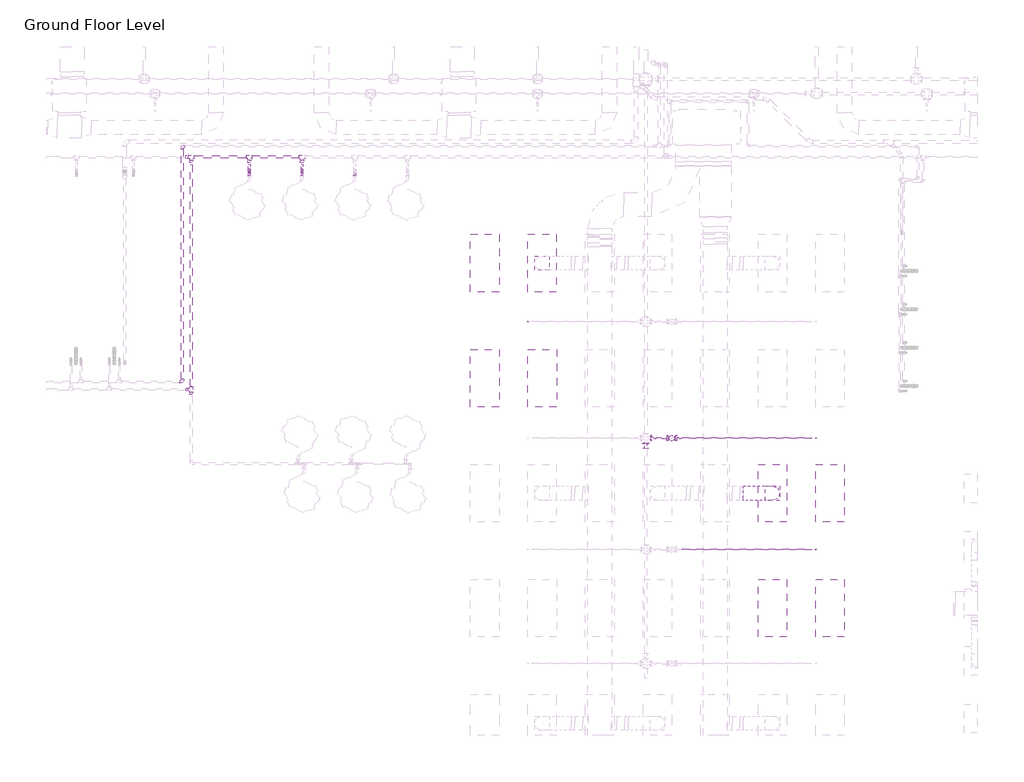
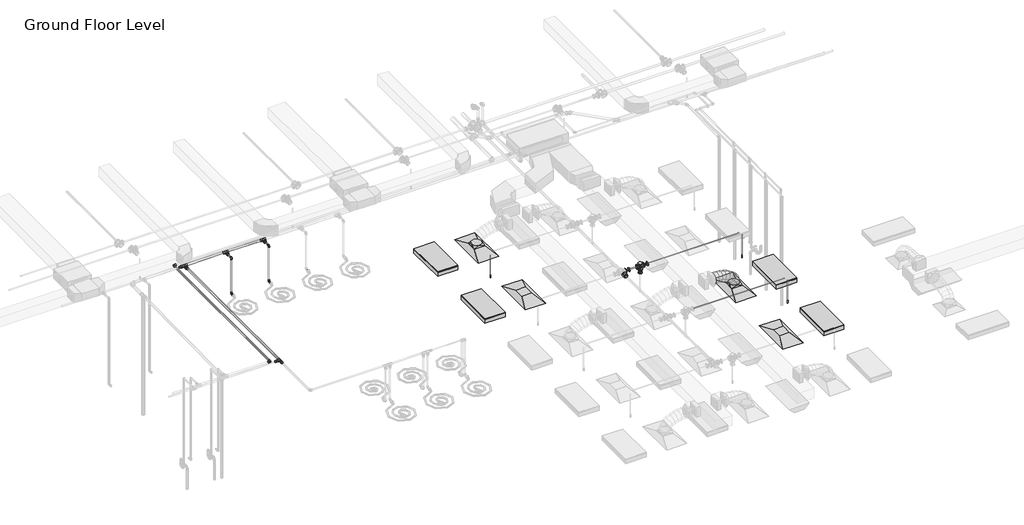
# One storey, part 46 of 68: 21 pipe fittings, 17 pipe segments, 4 air terminals, 4 light fixtures, 3 fire suppression terminals, 2 duct fittings, 1 duct segment.
"""IFC4 building model written with IfcOpenShell, lengths in millimetres."""

from ifc_helpers import new_model, si_unit, point, frame, frame_2d, origin, place, context, project, spatial, circle_curve, ellipse_curve, trimmed, segment, composite_curve, outline, extrude, transform, mapped, element, save
from ifc_brep_helpers import plane_surface, cylinder_surface, advanced_brep
from components import m_return_diffuser_1200x600_1200_x_600_face_300_x_300_d1983ef6, m_rectangular_to_round_transition_angle_45_degree_641efff0, m_sprinkler_dry_pendent_hosted_15_mm_dry_pendent_9bda8e11, m_troffer_light_parabolic_rectangular1_0600x1200mm_4_lamp_86473d4a, m_reducer_flanged_cs_class_150_standard_ccf252ad, m_reducer_flanged_cs_class_150_standard_d42b2106, m_reducer_flanged_cs_class_150_standard_564df86d, m_reducer_flanged_cs_class_150_standard_8338f9e4, m_tee_round_base_flanged_cs_class_150_standard_7e5987a1, standard_517a5a8d, standard_cd25fed3, standard_f1337950, standard_5079833c, standard_92e3b147, standard_bbae78af, standard_69e4ce0e, standard_a995ec02

model = new_model("IFC4")

# Units and contexts
model_context = context("Model", 3, world=origin())
ifc_project = project(units=[si_unit("LENGTHUNIT", "METRE", prefix="MILLI")], contexts=[model_context])

# Site, building, storey
site = spatial("IfcSite", under=ifc_project)
building = spatial("IfcBuilding", under=site)
storey = spatial("IfcBuildingStorey", under=building, Name="Ground Floor Level", Elevation=900.0)

# Air terminals
placement = place(None, origin())
m_return_diffuser_1200x600_1200_x_600_face_300_x_300_shape = m_return_diffuser_1200x600_1200_x_600_face_300_x_300_d1983ef6(model_context)
element("IfcAirTerminal", 1, ObjectType="M_Return Diffuser 1200x600 : 1200 x 600 Face 300 x 300 Connection", at=placement, inside=storey, context=model_context, shape_type="MappedRepresentation", body=[
    mapped(m_return_diffuser_1200x600_1200_x_600_face_300_x_300_shape, transform((-8137.2327605, 8835.2153534, 3650.0), x_axis=(0.0, 1.0, 0.0), y_axis=(-1.0, 0.0, 0.0), z_axis=(0.0, 0.0, 1.0))),
])
element("IfcAirTerminal", 2, ObjectType="M_Return Diffuser 1200x600 : 1200 x 600 Face 300 x 300 Connection", at=placement, inside=storey, context=model_context, shape_type="MappedRepresentation", body=[
    mapped(m_return_diffuser_1200x600_1200_x_600_face_300_x_300_shape, transform((-3337.2327605, 4035.2153534, 3650.0), x_axis=(0.0, 1.0, 0.0), y_axis=(-1.0, 0.0, 0.0), z_axis=(0.0, 0.0, 1.0))),
])
element("IfcAirTerminal", 3, ObjectType="M_Supply Diffuser 1200x600 : 1200 x 600 Face 300 x 300 Connection", at=placement, inside=storey, context=model_context, shape_type="MappedRepresentation", body=[
    mapped(m_return_diffuser_1200x600_1200_x_600_face_300_x_300_shape, transform((-8142.6846929, 11235.2153534, 3650.0), x_axis=(0.0, 1.0, 0.0), y_axis=(-1.0, 0.0, 0.0), z_axis=(0.0, 0.0, 1.0))),
])
element("IfcAirTerminal", 4, ObjectType="M_Supply Diffuser 1200x600 : 1200 x 600 Face 300 x 300 Connection", at=placement, inside=storey, context=model_context, shape_type="MappedRepresentation", body=[
    mapped(m_return_diffuser_1200x600_1200_x_600_face_300_x_300_shape, transform((-3337.2327605, 6435.2153534, 3650.0), x_axis=(0.0, 1.0, 0.0), y_axis=(-1.0, 0.0, 0.0), z_axis=(0.0, 0.0, 1.0))),
])

# Duct fittings
m_rectangular_to_round_transition_angle_45_degree_shape = m_rectangular_to_round_transition_angle_45_degree_641efff0(model_context)
element("IfcDuctFitting", 5, ObjectType="M_Rectangular to Round Transition - Angle : 45 Degree", at=placement, inside=storey, context=model_context, shape_type="MappedRepresentation", body=[
    mapped(m_rectangular_to_round_transition_angle_45_degree_shape, transform((-8142.6846929, 11235.2153534, 3751.6), x_axis=(0.0, 0.0, 1.0), y_axis=(-1.0, 0.0, 0.0), z_axis=(0.0, -1.0, 0.0))),
])
element("IfcDuctFitting", 6, ObjectType="M_Rectangular to Round Transition - Angle : 45 Degree", at=placement, inside=storey, context=model_context, shape_type="MappedRepresentation", body=[
    mapped(m_rectangular_to_round_transition_angle_45_degree_shape, transform((-3337.2327605, 6435.2153534, 3751.6), x_axis=(0.0, 0.0, 1.0), y_axis=(-1.0, 0.0, 0.0), z_axis=(0.0, -1.0, 0.0))),
])

# Duct segment
element("IfcDuctSegment", 7, ObjectType="Flex - Round", at=placement, inside=storey, context=model_context, shape_type="AdvancedBrep", body=[
    advanced_brep(
    [(-3187.2327605, 6435.2153534, 3826.6), (-3337.2327605, 6285.2153534, 3826.6), (-3487.2327605, 6435.2153534, 3826.6), (-3337.2327605, 6585.2153534, 3826.6), (-3187.2327605, 6435.2153534, 3882.1255581), (-3337.2327605, 6285.2153534, 3857.3046173), (-3487.2327605, 6435.2153534, 3832.4836764), (-3337.2327605, 6585.2153534, 3857.3046173), (-3218.4253034, 6435.2153534, 3973.7974983), (-3353.8937102, 6285.2153534, 3906.2695763), (-3489.362117, 6435.2153534, 3838.7416543), (-3353.8937102, 6585.2153534, 3906.2695763), (-3288.1573657, 6435.2153534, 4076.409352), (-3399.7704918, 6285.2153534, 3973.7779999), (-3511.3836179, 6435.2153534, 3871.1466478), (-3399.7704918, 6585.2153534, 3973.7779999), (-3386.082926, 6435.2153534, 4155.7082221), (-3468.7040039, 6285.2153534, 4029.599479), (-3551.3250817, 6435.2153534, 3903.4907359), (-3468.7040039, 6585.2153534, 4029.599479), (-3494.825089, 6435.2153534, 4212.2244369), (-3554.535145, 6285.2153534, 4074.2082221), (-3614.2452011, 6435.2153534, 3936.1920073), (-3554.535145, 6585.2153534, 4074.2082221), (-3609.1145825, 6435.2153534, 4252.3095878), (-3651.104814, 6285.2153534, 4108.0784374), (-3693.0950455, 6435.2153534, 3963.847287), (-3651.104814, 6585.2153534, 4108.0784374), (-3724.8435514, 6435.2153534, 4279.3180942), (-3752.2539093, 6285.2153534, 4131.6843333), (-3779.6642673, 6435.2153534, 3984.0505724), (-3752.2539093, 6585.2153534, 4131.6843333), (-3837.5009499, 6435.2153534, 4294.9499053), (-3851.8233297, 6285.2153534, 4145.500118), (-3866.1457095, 6435.2153534, 3996.0503308), (-3851.8233297, 6585.2153534, 4145.500118), (-3932.3208261, 6435.2153534, 4300.0), (-3936.312488, 6285.2153534, 4150.0), (-3940.3041499, 6435.2153534, 4000.0), (-3936.312488, 6585.2153534, 4150.0), (-3943.6539738, 6435.2153534, 4300.0), (-3943.6539738, 6585.2153534, 4150.0), (-3943.6539738, 6435.2153534, 4000.0), (-3943.6539738, 6285.2153534, 4150.0)],
    [
        (0, 1, circle_curve(frame((-3337.2327605, 6435.2153534, 3826.6), z_axis=(0.0, 0.0, -1.0), x_axis=(1.0, 0.0, 0.0)), 150.0)),
        (1, 2, circle_curve(frame((-3337.2327605, 6435.2153534, 3826.6), z_axis=(0.0, 0.0, -1.0), x_axis=(1.0, 0.0, 0.0)), 150.0)),
        (2, 3, circle_curve(frame((-3337.2327605, 6435.2153534, 3826.6), z_axis=(0.0, 0.0, -1.0), x_axis=(1.0, 0.0, 0.0)), 150.0)),
        (3, 0, circle_curve(frame((-3337.2327605, 6435.2153534, 3826.6), z_axis=(0.0, 0.0, -1.0), x_axis=(1.0, 0.0, 0.0)), 150.0)),
        (0, 4),
        (4, 5, ellipse_curve(frame((-3337.2327605, 6435.2153534, 3857.3046173), z_axis=(0.16325299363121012, 0.0, -0.9865842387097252), x_axis=(-0.9865842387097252, 0.0, -0.16325299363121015)), 152.0397287, 150.0)),
        (5, 1),
        (5, 6, ellipse_curve(frame((-3337.2327605, 6435.2153534, 3857.3046173), z_axis=(0.16325299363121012, 0.0, -0.9865842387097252), x_axis=(-0.9865842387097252, 0.0, -0.16325299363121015)), 152.0397287, 150.0)),
        (6, 2),
        (6, 7, ellipse_curve(frame((-3337.2327605, 6435.2153534, 3857.3046173), z_axis=(0.16325299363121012, 0.0, -0.9865842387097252), x_axis=(-0.9865842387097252, 0.0, -0.16325299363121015)), 152.0397287, 150.0)),
        (7, 3),
        (7, 4, ellipse_curve(frame((-3337.2327605, 6435.2153534, 3857.3046173), z_axis=(0.16325299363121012, 0.0, -0.9865842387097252), x_axis=(-0.9865842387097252, 0.0, -0.16325299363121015)), 152.0397287, 150.0)),
        (4, 8),
        (8, 9, ellipse_curve(frame((-3353.8937102, 6435.2153534, 3906.2695763), z_axis=(0.446123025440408, 0.0, -0.894971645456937), x_axis=(-0.8949716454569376, 0.0, -0.44612302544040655)), 151.3661438, 150.0)),
        (9, 5),
        (9, 10, ellipse_curve(frame((-3353.8937102, 6435.2153534, 3906.2695763), z_axis=(0.446123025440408, 0.0, -0.894971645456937), x_axis=(-0.8949716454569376, 0.0, -0.44612302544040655)), 151.3661438, 150.0)),
        (10, 6),
        (10, 11, ellipse_curve(frame((-3353.8937102, 6435.2153534, 3906.2695763), z_axis=(0.446123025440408, 0.0, -0.894971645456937), x_axis=(-0.8949716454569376, 0.0, -0.44612302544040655)), 151.3661438, 150.0)),
        (11, 7),
        (11, 8, ellipse_curve(frame((-3353.8937102, 6435.2153534, 3906.2695763), z_axis=(0.446123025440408, 0.0, -0.894971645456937), x_axis=(-0.8949716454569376, 0.0, -0.44612302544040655)), 151.3661438, 150.0)),
        (8, 12),
        (12, 13, ellipse_curve(frame((-3399.7704918, 6435.2153534, 3973.7779999), z_axis=(0.6768681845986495, 0.0, -0.7361042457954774), x_axis=(-0.7361042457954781, 0.0, -0.6768681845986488)), 151.626793, 150.0)),
        (13, 9),
        (13, 14, ellipse_curve(frame((-3399.7704918, 6435.2153534, 3973.7779999), z_axis=(0.6768681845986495, 0.0, -0.7361042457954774), x_axis=(-0.7361042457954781, 0.0, -0.6768681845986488)), 151.626793, 150.0)),
        (14, 10),
        (14, 15, ellipse_curve(frame((-3399.7704918, 6435.2153534, 3973.7779999), z_axis=(0.6768681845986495, 0.0, -0.7361042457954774), x_axis=(-0.7361042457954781, 0.0, -0.6768681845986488)), 151.626793, 150.0)),
        (15, 11),
        (15, 12, ellipse_curve(frame((-3399.7704918, 6435.2153534, 3973.7779999), z_axis=(0.6768681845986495, 0.0, -0.7361042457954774), x_axis=(-0.7361042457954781, 0.0, -0.6768681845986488)), 151.626793, 150.0)),
        (12, 16),
        (16, 17, ellipse_curve(frame((-3468.7040039, 6435.2153534, 4029.599479), z_axis=(0.8364668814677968, 0.0, -0.5480174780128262), x_axis=(-0.5480174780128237, 0.0, -0.8364668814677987)), 150.7635818, 150.0)),
        (17, 13),
        (17, 18, ellipse_curve(frame((-3468.7040039, 6435.2153534, 4029.599479), z_axis=(0.8364668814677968, 0.0, -0.5480174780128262), x_axis=(-0.5480174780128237, 0.0, -0.8364668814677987)), 150.7635818, 150.0)),
        (18, 14),
        (18, 19, ellipse_curve(frame((-3468.7040039, 6435.2153534, 4029.599479), z_axis=(0.8364668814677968, 0.0, -0.5480174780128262), x_axis=(-0.5480174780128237, 0.0, -0.8364668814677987)), 150.7635818, 150.0)),
        (19, 15),
        (19, 16, ellipse_curve(frame((-3468.7040039, 6435.2153534, 4029.599479), z_axis=(0.8364668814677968, 0.0, -0.5480174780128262), x_axis=(-0.5480174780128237, 0.0, -0.8364668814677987)), 150.7635818, 150.0)),
        (16, 20),
        (20, 21, ellipse_curve(frame((-3554.535145, 6435.2153534, 4074.2082221), z_axis=(0.9177907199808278, 0.0, -0.3970644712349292), x_axis=(-0.3970644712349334, 0.0, -0.917790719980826)), 150.378743, 150.0)),
        (21, 17),
        (21, 22, ellipse_curve(frame((-3554.535145, 6435.2153534, 4074.2082221), z_axis=(0.9177907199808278, 0.0, -0.3970644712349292), x_axis=(-0.3970644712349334, 0.0, -0.917790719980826)), 150.378743, 150.0)),
        (22, 18),
        (22, 23, ellipse_curve(frame((-3554.535145, 6435.2153534, 4074.2082221), z_axis=(0.9177907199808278, 0.0, -0.3970644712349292), x_axis=(-0.3970644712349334, 0.0, -0.917790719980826)), 150.378743, 150.0)),
        (23, 19),
        (23, 20, ellipse_curve(frame((-3554.535145, 6435.2153534, 4074.2082221), z_axis=(0.9177907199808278, 0.0, -0.3970644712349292), x_axis=(-0.3970644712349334, 0.0, -0.917790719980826)), 150.378743, 150.0)),
        (20, 24),
        (24, 25, ellipse_curve(frame((-3651.104814, 6435.2153534, 4108.0784374), z_axis=(0.9601380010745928, 0.0, -0.2795264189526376), x_axis=(-0.2795264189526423, 0.0, -0.9601380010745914)), 150.2191875, 150.0)),
        (25, 21),
        (25, 26, ellipse_curve(frame((-3651.104814, 6435.2153534, 4108.0784374), z_axis=(0.9601380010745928, 0.0, -0.2795264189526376), x_axis=(-0.2795264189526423, 0.0, -0.9601380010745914)), 150.2191875, 150.0)),
        (26, 22),
        (26, 27, ellipse_curve(frame((-3651.104814, 6435.2153534, 4108.0784374), z_axis=(0.9601380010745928, 0.0, -0.2795264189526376), x_axis=(-0.2795264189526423, 0.0, -0.9601380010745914)), 150.2191875, 150.0)),
        (27, 23),
        (27, 24, ellipse_curve(frame((-3651.104814, 6435.2153534, 4108.0784374), z_axis=(0.9601380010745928, 0.0, -0.2795264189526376), x_axis=(-0.2795264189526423, 0.0, -0.9601380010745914)), 150.2191875, 150.0)),
        (24, 28),
        (28, 29, ellipse_curve(frame((-3752.2539093, 6435.2153534, 4131.6843333), z_axis=(0.9831975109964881, 0.0, -0.18254493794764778), x_axis=(-0.18254493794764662, 0.0, -0.9831975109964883)), 150.1567684, 150.0)),
        (29, 25),
        (29, 30, ellipse_curve(frame((-3752.2539093, 6435.2153534, 4131.6843333), z_axis=(0.9831975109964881, 0.0, -0.18254493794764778), x_axis=(-0.18254493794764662, 0.0, -0.9831975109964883)), 150.1567684, 150.0)),
        (30, 26),
        (30, 31, ellipse_curve(frame((-3752.2539093, 6435.2153534, 4131.6843333), z_axis=(0.9831975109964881, 0.0, -0.18254493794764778), x_axis=(-0.18254493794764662, 0.0, -0.9831975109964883)), 150.1567684, 150.0)),
        (31, 27),
        (31, 28, ellipse_curve(frame((-3752.2539093, 6435.2153534, 4131.6843333), z_axis=(0.9831975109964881, 0.0, -0.18254493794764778), x_axis=(-0.18254493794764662, 0.0, -0.9831975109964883)), 150.1567684, 150.0)),
        (28, 32),
        (32, 33, ellipse_curve(frame((-3851.8233297, 6435.2153534, 4145.500118), z_axis=(0.9954393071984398, 0.0, -0.09539698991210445), x_axis=(-0.09539698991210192, 0.0, -0.99543930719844)), 150.1345046, 150.0)),
        (33, 29),
        (33, 34, ellipse_curve(frame((-3851.8233297, 6435.2153534, 4145.500118), z_axis=(0.9954393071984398, 0.0, -0.09539698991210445), x_axis=(-0.09539698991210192, 0.0, -0.99543930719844)), 150.1345046, 150.0)),
        (34, 30),
        (34, 35, ellipse_curve(frame((-3851.8233297, 6435.2153534, 4145.500118), z_axis=(0.9954393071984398, 0.0, -0.09539698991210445), x_axis=(-0.09539698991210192, 0.0, -0.99543930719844)), 150.1345046, 150.0)),
        (35, 31),
        (35, 32, ellipse_curve(frame((-3851.8233297, 6435.2153534, 4145.500118), z_axis=(0.9954393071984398, 0.0, -0.09539698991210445), x_axis=(-0.09539698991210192, 0.0, -0.99543930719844)), 150.1345046, 150.0)),
        (32, 36),
        (36, 37, ellipse_curve(frame((-3936.312488, 6435.2153534, 4150.0), z_axis=(0.9996461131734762, 0.0, -0.02660166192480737), x_axis=(-0.026601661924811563, 0.0, -0.9996461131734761)), 150.0531018, 150.0)),
        (37, 33),
        (37, 38, ellipse_curve(frame((-3936.312488, 6435.2153534, 4150.0), z_axis=(0.9996461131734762, 0.0, -0.02660166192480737), x_axis=(-0.026601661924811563, 0.0, -0.9996461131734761)), 150.0531018, 150.0)),
        (38, 34),
        (38, 39, ellipse_curve(frame((-3936.312488, 6435.2153534, 4150.0), z_axis=(0.9996461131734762, 0.0, -0.02660166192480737), x_axis=(-0.026601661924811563, 0.0, -0.9996461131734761)), 150.0531018, 150.0)),
        (39, 35),
        (39, 36, ellipse_curve(frame((-3936.312488, 6435.2153534, 4150.0), z_axis=(0.9996461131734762, 0.0, -0.02660166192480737), x_axis=(-0.026601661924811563, 0.0, -0.9996461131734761)), 150.0531018, 150.0)),
        (40, 41, circle_curve(frame((-3943.6539738, 6435.2153534, 4150.0), z_axis=(-1.0, 0.0, 0.0), x_axis=(0.0, 0.0, 1.0)), 150.0)),
        (41, 42, circle_curve(frame((-3943.6539738, 6435.2153534, 4150.0), z_axis=(-1.0, 0.0, 0.0), x_axis=(0.0, 0.0, 1.0)), 150.0)),
        (42, 43, circle_curve(frame((-3943.6539738, 6435.2153534, 4150.0), z_axis=(-1.0, 0.0, 0.0), x_axis=(0.0, 0.0, 1.0)), 150.0)),
        (43, 40, circle_curve(frame((-3943.6539738, 6435.2153534, 4150.0), z_axis=(-1.0, 0.0, 0.0), x_axis=(0.0, 0.0, 1.0)), 150.0)),
        (36, 40),
        (43, 37),
        (42, 38),
        (41, 39),
    ],
    [
        plane_surface(frame((-3337.2327605, 6285.2153534, 3826.6), z_axis=(0.0, 0.0, -1.0), x_axis=(1.0, 0.0, 0.0))),
        cylinder_surface(frame((-3337.2327605, 6435.2153534, 3826.6), z_axis=(0.0, 0.0, -1.0), x_axis=(1.0, 0.0, 0.0)), 150.0),
        cylinder_surface(frame((-3337.2327605, 6435.2153534, 3857.3046173), z_axis=(0.3221256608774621, 0.0, -0.9466969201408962), x_axis=(0.9466969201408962, 0.0, 0.3221256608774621)), 150.0),
        cylinder_surface(frame((-3353.8937102, 6435.2153534, 3906.2695763), z_axis=(0.5620674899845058, 0.0, -0.8270913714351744), x_axis=(0.8270913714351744, 0.0, 0.5620674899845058)), 150.0),
        cylinder_surface(frame((-3399.7704918, 6435.2153534, 3973.7779999), z_axis=(0.7771447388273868, 0.0, -0.6293219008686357), x_axis=(0.6293219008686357, 0.0, 0.7771447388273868)), 150.0),
        cylinder_surface(frame((-3468.7040039, 6435.2153534, 4029.599479), z_axis=(0.8873160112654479, 0.0, -0.4611618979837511), x_axis=(0.4611618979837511, 0.0, 0.8873160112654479)), 150.0),
        cylinder_surface(frame((-3554.535145, 6435.2153534, 4074.2082221), z_axis=(0.9436423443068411, 0.0, -0.3309669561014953), x_axis=(0.3309669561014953, 0.0, 0.9436423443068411)), 150.0),
        cylinder_surface(frame((-3651.104814, 6435.2153534, 4108.0784374), z_axis=(0.973831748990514, 0.0, -0.22727015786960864), x_axis=(0.22727015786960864, 0.0, 0.973831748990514)), 150.0),
        cylinder_surface(frame((-3752.2539093, 6435.2153534, 4131.6843333), z_axis=(0.9905102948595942, 0.0, -0.1374385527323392), x_axis=(0.1374385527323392, 0.0, 0.9905102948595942)), 150.0),
        cylinder_surface(frame((-3851.8233297, 6435.2153534, 4145.500118), z_axis=(0.9985847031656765, 0.0, -0.05318449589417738), x_axis=(0.05318449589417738, 0.0, 0.9985847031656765)), 150.0),
        plane_surface(frame((-3943.6539738, 6435.2153534, 4000.0), z_axis=(-1.0, 0.0, 0.0), x_axis=(0.0, -1.0, 0.0))),
        cylinder_surface(frame((-3936.312488, 6435.2153534, 4150.0), z_axis=(1.0, 0.0, 0.0), x_axis=(0.0, 0.0, 1.0)), 150.0),
    ],
    [
        (0, [[1, 2, 3, 4]]),
        (1, [[-1, 5, 6, 7]]),
        (1, [[-2, -7, 8, 9]]),
        (1, [[-3, -9, 10, 11]]),
        (1, [[-4, -11, 12, -5]]),
        (2, [[-6, 13, 14, 15]]),
        (2, [[-8, -15, 16, 17]]),
        (2, [[-10, -17, 18, 19]]),
        (2, [[-12, -19, 20, -13]]),
        (3, [[-14, 21, 22, 23]]),
        (3, [[-16, -23, 24, 25]]),
        (3, [[-18, -25, 26, 27]]),
        (3, [[-20, -27, 28, -21]]),
        (4, [[-22, 29, 30, 31]]),
        (4, [[-24, -31, 32, 33]]),
        (4, [[-26, -33, 34, 35]]),
        (4, [[-28, -35, 36, -29]]),
        (5, [[-30, 37, 38, 39]]),
        (5, [[-32, -39, 40, 41]]),
        (5, [[-34, -41, 42, 43]]),
        (5, [[-36, -43, 44, -37]]),
        (6, [[-38, 45, 46, 47]]),
        (6, [[-40, -47, 48, 49]]),
        (6, [[-42, -49, 50, 51]]),
        (6, [[-44, -51, 52, -45]]),
        (7, [[-46, 53, 54, 55]]),
        (7, [[-48, -55, 56, 57]]),
        (7, [[-50, -57, 58, 59]]),
        (7, [[-52, -59, 60, -53]]),
        (8, [[-54, 61, 62, 63]]),
        (8, [[-56, -63, 64, 65]]),
        (8, [[-58, -65, 66, 67]]),
        (8, [[-60, -67, 68, -61]]),
        (9, [[-62, 69, 70, 71]]),
        (9, [[-64, -71, 72, 73]]),
        (9, [[-66, -73, 74, 75]]),
        (9, [[-68, -75, 76, -69]]),
        (10, [[77, 78, 79, 80]]),
        (11, [[-70, 81, -80, 82]]),
        (11, [[-72, -82, -79, 83]]),
        (11, [[-74, -83, -78, 84]]),
        (11, [[-76, -84, -77, -81]]),
    ],
),
])

# Fire suppression terminals
m_sprinkler_dry_pendent_hosted_15_mm_dry_pendent_shape = m_sprinkler_dry_pendent_hosted_15_mm_dry_pendent_9bda8e11(model_context)
element("IfcFireSuppressionTerminal", 8, ObjectType="M_Sprinkler - Dry - Pendent - Hosted : 15 mm Dry Pendent", at=placement, inside=storey, context=model_context, shape_type="MappedRepresentation", body=[
    mapped(m_sprinkler_dry_pendent_hosted_15_mm_dry_pendent_shape, transform((-8437.2327605, 10013.008259, 3650.0), x_axis=(1.0, 0.0, 0.0), y_axis=(0.0, -1.0, 0.0), z_axis=(0.0, 0.0, -1.0))),
])
element("IfcFireSuppressionTerminal", 9, ObjectType="M_Sprinkler - Dry - Pendent - Hosted : 15 mm Dry Pendent", at=placement, inside=storey, context=model_context, shape_type="MappedRepresentation", body=[
    mapped(m_sprinkler_dry_pendent_hosted_15_mm_dry_pendent_shape, transform((-2437.2327605, 7582.7040742, 3650.0), x_axis=(1.0, 0.0, 0.0), y_axis=(0.0, -1.0, 0.0), z_axis=(0.0, 0.0, -1.0))),
])
element("IfcFireSuppressionTerminal", 10, ObjectType="M_Sprinkler - Dry - Pendent - Hosted : 15 mm Dry Pendent", at=placement, inside=storey, context=model_context, shape_type="MappedRepresentation", body=[
    mapped(m_sprinkler_dry_pendent_hosted_15_mm_dry_pendent_shape, transform((-2437.2327605, 5261.0372753, 3650.0), x_axis=(1.0, 0.0, 0.0), y_axis=(0.0, -1.0, 0.0), z_axis=(0.0, 0.0, -1.0))),
])

# Light fixtures
m_troffer_light_parabolic_rectangular1_0600x1200mm_4_lamp_shape = m_troffer_light_parabolic_rectangular1_0600x1200mm_4_lamp_86473d4a(model_context)
element("IfcLightFixture", 11, ObjectType="M_Troffer Light - Parabolic Rectangular1 : 0600x1200mm(4 Lamp) - 277V 2", at=placement, inside=storey, context=model_context, shape_type="MappedRepresentation", body=[
    mapped(m_troffer_light_parabolic_rectangular1_0600x1200mm_4_lamp_shape, transform((-9396.6986926, 11253.918855, 3650.0), x_axis=(0.0, 1.0, 0.0), y_axis=(-1.0, 0.0, 0.0), z_axis=(0.0, 0.0, 1.0))),
])
element("IfcLightFixture", 12, ObjectType="M_Troffer Light - Parabolic Rectangular1 : 0600x1200mm(4 Lamp) - 277V 2", at=placement, inside=storey, context=model_context, shape_type="MappedRepresentation", body=[
    mapped(m_troffer_light_parabolic_rectangular1_0600x1200mm_4_lamp_shape, transform((-9396.6986926, 8853.918855, 3650.0), x_axis=(0.0, 1.0, 0.0), y_axis=(-1.0, 0.0, 0.0), z_axis=(0.0, 0.0, 1.0))),
])
element("IfcLightFixture", 13, ObjectType="M_Troffer Light - Parabolic Rectangular1 : 0600x1200mm(4 Lamp) - 277V 2", at=placement, inside=storey, context=model_context, shape_type="MappedRepresentation", body=[
    mapped(m_troffer_light_parabolic_rectangular1_0600x1200mm_4_lamp_shape, transform((-2196.6986926, 6453.918855, 3650.0), x_axis=(0.0, 1.0, 0.0), y_axis=(-1.0, 0.0, 0.0), z_axis=(0.0, 0.0, 1.0))),
])
element("IfcLightFixture", 14, ObjectType="M_Troffer Light - Parabolic Rectangular1 : 0600x1200mm(4 Lamp) - 277V 2", at=placement, inside=storey, context=model_context, shape_type="MappedRepresentation", body=[
    mapped(m_troffer_light_parabolic_rectangular1_0600x1200mm_4_lamp_shape, transform((-2196.6986926, 4053.918855, 3650.0), x_axis=(0.0, 1.0, 0.0), y_axis=(-1.0, 0.0, 0.0), z_axis=(0.0, 0.0, 1.0))),
])

# Pipe fittings
m_reducer_flanged_cs_class_150_standard_shape = m_reducer_flanged_cs_class_150_standard_ccf252ad(model_context)
element("IfcPipeFitting", 15, ObjectType="M_Reducer - Flanged - CS - Class 150 : Standard", at=placement, inside=storey, context=model_context, shape_type="MappedRepresentation", body=[
    mapped(m_reducer_flanged_cs_class_150_standard_shape, transform((-5437.2327605, 7582.7040742, 4259.2914063), x_axis=(0.0, 0.0, -1.0), y_axis=(-1.0, 0.0, 0.0), z_axis=(0.0, 1.0, 0.0))),
])
m_reducer_flanged_cs_class_150_standard_2_shape = m_reducer_flanged_cs_class_150_standard_d42b2106(model_context)
element("IfcPipeFitting", 16, ObjectType="M_Reducer - Flanged - CS - Class 150 : Standard", at=placement, inside=storey, context=model_context, shape_type="MappedRepresentation", body=[
    mapped(m_reducer_flanged_cs_class_150_standard_2_shape, transform((-5336.5241668, 7582.7040742, 4360.0), x_axis=(1.0, 0.0, 0.0), y_axis=(0.0, 1.0, 0.0), z_axis=(0.0, 0.0, 1.0))),
])
m_reducer_flanged_cs_class_150_standard_3_shape = m_reducer_flanged_cs_class_150_standard_564df86d(model_context)
element("IfcPipeFitting", 17, ObjectType="M_Reducer - Flanged - CS - Class 150 : Standard", at=placement, inside=storey, context=model_context, shape_type="MappedRepresentation", body=[
    mapped(m_reducer_flanged_cs_class_150_standard_3_shape, transform((-5978.130502, 7480.7040742, 4360.0), x_axis=(0.0, -1.0, 0.0), y_axis=(1.0, 0.0, 0.0), z_axis=(0.0, 0.0, 1.0))),
])
m_reducer_flanged_cs_class_150_standard_4_shape = m_reducer_flanged_cs_class_150_standard_8338f9e4(model_context)
element("IfcPipeFitting", 18, ObjectType="M_Reducer - Flanged - CS - Class 150 : Standard", at=placement, inside=storey, context=model_context, shape_type="MappedRepresentation", body=[
    mapped(m_reducer_flanged_cs_class_150_standard_4_shape, transform((-5876.130502, 7582.7040742, 4360.0), x_axis=(1.0, 0.0, 0.0), y_axis=(0.0, 1.0, 0.0), z_axis=(0.0, 0.0, 1.0))),
])
m_tee_round_base_flanged_cs_class_150_standard_shape = m_tee_round_base_flanged_cs_class_150_standard_7e5987a1(model_context)
element("IfcPipeFitting", 19, ObjectType="M_Tee Round Base - Flanged - CS - Class 150 : Standard", at=placement, inside=storey, context=model_context, shape_type="MappedRepresentation", body=[
    mapped(m_tee_round_base_flanged_cs_class_150_standard_shape, transform((-5437.2327605, 7582.7040742, 4360.0), x_axis=(1.0, 0.0, 0.0), y_axis=(0.0, 0.0, 1.0), z_axis=(0.0, -1.0, 0.0))),
])
standard_shape = standard_517a5a8d(model_context)
element("IfcPipeFitting", 20, ObjectType="M_Elbow - CPVC - Sch 40 : Standard", at=placement, inside=storey, context=model_context, shape_type="MappedRepresentation", body=[
    mapped(standard_shape, transform((-14247.2327605, 13150.8347997, 3200.0), x_axis=(0.0, 1.0, 0.0), y_axis=(0.0, 0.0, 1.0), z_axis=(1.0, 0.0, 0.0))),
])
element("IfcPipeFitting", 21, ObjectType="M_Elbow - CPVC - Sch 40 : Standard", at=placement, inside=storey, context=model_context, shape_type="MappedRepresentation", body=[
    mapped(standard_shape, transform((-14247.2327605, 13150.8347997, 4315.0), x_axis=(0.0, 0.0, 1.0), y_axis=(0.0, 1.0, 0.0), z_axis=(-1.0, 0.0, 0.0))),
])
element("IfcPipeFitting", 22, ObjectType="M_Elbow - CPVC - Sch 40 : Standard", at=placement, inside=storey, context=model_context, shape_type="MappedRepresentation", body=[
    mapped(standard_shape, transform((-13147.2327605, 13150.8347997, 4315.0), x_axis=(0.0, 0.0, 1.0), y_axis=(0.0, 1.0, 0.0), z_axis=(-1.0, 0.0, 0.0))),
])
element("IfcPipeFitting", 23, ObjectType="M_Elbow - CPVC - Sch 40 : Standard", at=placement, inside=storey, context=model_context, shape_type="MappedRepresentation", body=[
    mapped(standard_shape, transform((-13147.2327605, 13150.8347997, 3200.0), x_axis=(0.0, 0.0, -1.0), y_axis=(0.0, -1.0, 0.0), z_axis=(-1.0, 0.0, 0.0))),
])
standard_2_shape = standard_cd25fed3(model_context)
element("IfcPipeFitting", 24, ObjectType="M_Tee - CPVC - Sch 40 : Standard", at=placement, inside=storey, context=model_context, shape_type="MappedRepresentation", body=[
    mapped(standard_2_shape, transform((-14247.2327605, 13449.9865561, 4315.0), x_axis=(-1.0, 0.0, 0.0), y_axis=(0.0, 1.0, 0.0), z_axis=(0.0, 0.0, -1.0))),
])
element("IfcPipeFitting", 25, ObjectType="M_Tee - CPVC - Sch 40 : Standard", at=placement, inside=storey, context=model_context, shape_type="MappedRepresentation", body=[
    mapped(standard_2_shape, transform((-13147.2327605, 13449.9865561, 4315.0), x_axis=(-1.0, 0.0, 0.0), y_axis=(0.0, 1.0, 0.0), z_axis=(0.0, 0.0, -1.0))),
])
element("IfcPipeFitting", 26, ObjectType="M_Tee - CPVC - Sch 40 : Standard", at=placement, inside=storey, context=model_context, shape_type="MappedRepresentation", body=[
    mapped(standard_2_shape, transform((-15455.6408298, 13449.9865561, 4315.0), x_axis=(-1.0, 0.0, 0.0), y_axis=(0.0, 1.0, 0.0), z_axis=(0.0, 0.0, -1.0))),
])
standard_3_shape = standard_f1337950(model_context)
element("IfcPipeFitting", 27, ObjectType="M_Coupling Reducing - CPVC - Sch 40 : Standard", at=placement, inside=storey, context=model_context, shape_type="MappedRepresentation", body=[
    mapped(standard_3_shape, transform((-14247.2327605, 13383.3115561, 4315.0), x_axis=(0.0, -1.0, 0.0), y_axis=(1.0, 0.0, 0.0), z_axis=(0.0, 0.0, 1.0))),
])
element("IfcPipeFitting", 28, ObjectType="M_Coupling Reducing - CPVC - Sch 40 : Standard", at=placement, inside=storey, context=model_context, shape_type="MappedRepresentation", body=[
    mapped(standard_3_shape, transform((-13147.2327605, 13383.3115561, 4315.0), x_axis=(0.0, -1.0, 0.0), y_axis=(1.0, 0.0, 0.0), z_axis=(0.0, 0.0, 1.0))),
])
standard_4_shape = standard_5079833c(model_context)
element("IfcPipeFitting", 29, ObjectType="M_Coupling Reducing - CPVC - Sch 40 : Standard", at=placement, inside=storey, context=model_context, shape_type="MappedRepresentation", body=[
    mapped(standard_4_shape, transform((-15522.3158298, 13449.9865561, 4315.0), x_axis=(-1.0, 0.0, 0.0), y_axis=(0.0, -1.0, 0.0), z_axis=(0.0, 0.0, 1.0))),
])
standard_5_shape = standard_92e3b147(model_context)
element("IfcPipeFitting", 30, ObjectType="M_Coupling Reducing - CPVC - Sch 40 : Standard", at=placement, inside=storey, context=model_context, shape_type="MappedRepresentation", body=[
    mapped(standard_5_shape, transform((-15455.6408298, 13383.3115561, 4315.0), x_axis=(0.0, -1.0, 0.0), y_axis=(1.0, 0.0, 0.0), z_axis=(0.0, 0.0, 1.0))),
])
standard_6_shape = standard_bbae78af(model_context)
element("IfcPipeFitting", 31, ObjectType="M_Tee - CPVC - Sch 40 : Standard", at=placement, inside=storey, context=model_context, shape_type="MappedRepresentation", body=[
    mapped(standard_6_shape, transform((-15455.6408298, 8599.9071734, 4315.0), x_axis=(0.0, 1.0, 0.0), y_axis=(1.0, 0.0, 0.0), z_axis=(0.0, 0.0, -1.0))),
])
standard_7_shape = standard_69e4ce0e(model_context)
element("IfcPipeFitting", 32, ObjectType="M_Elbow - CPVC - Sch 40 : Standard", at=placement, inside=storey, context=model_context, shape_type="MappedRepresentation", body=[
    mapped(standard_7_shape, transform((-15642.8173674, 8755.2153534, 4250.0), x_axis=(1.0, 0.0, 0.0), y_axis=(0.0, 1.0, 0.0), z_axis=(0.0, 0.0, 1.0))),
])
element("IfcPipeFitting", 33, ObjectType="M_Elbow - CPVC - Sch 40 : Standard", at=placement, inside=storey, context=model_context, shape_type="MappedRepresentation", body=[
    mapped(standard_7_shape, transform((-15642.8173674, 13675.2153534, 4250.0), x_axis=(-1.0, 0.0, 0.0), y_axis=(0.0, -1.0, 0.0), z_axis=(0.0, 0.0, 1.0))),
])
standard_8_shape = standard_a995ec02(model_context)
element("IfcPipeFitting", 34, ObjectType="M_Coupling Reducing - CPVC - Sch 40 : Standard", at=placement, inside=storey, context=model_context, shape_type="MappedRepresentation", body=[
    mapped(standard_8_shape, transform((-15455.6408298, 8541.1569734, 4315.0), x_axis=(0.0, -1.0, 0.0), y_axis=(1.0, 0.0, 0.0), z_axis=(0.0, 0.0, 1.0))),
])
element("IfcPipeFitting", 35, ObjectType="M_Coupling Reducing - CPVC - Sch 40 : Standard", at=placement, inside=storey, context=model_context, shape_type="MappedRepresentation", body=[
    mapped(standard_8_shape, transform((-15514.3910298, 8599.9071734, 4315.0), x_axis=(-1.0, 0.0, 0.0), y_axis=(0.0, -1.0, 0.0), z_axis=(0.0, 0.0, 1.0))),
])

# Pipe segments
element("IfcPipeSegment", 36, ObjectType="CPVC", at=placement, inside=storey, context=model_context, shape_type="SweptSolid", body=[
    extrude(outline(composite_curve([segment(trimmed(circle_curve(frame_2d((3200.0, -14247.2327605)), 16.7005), [point((3200.0, -14230.5322605))], [point((3216.7005, -14247.2327605))], False, "CARTESIAN"), True, "CONTINUOUS"), segment(trimmed(circle_curve(frame_2d((3200.0, -14247.2327605)), 16.7005), [point((3216.7005, -14247.2327605))], [point((3200.0, -14263.9332605))], False, "CARTESIAN"), True, "CONTINUOUS"), segment(trimmed(circle_curve(frame_2d((3200.0, -14247.2327605)), 16.7005), [point((3200.0, -14263.9332605))], [point((3183.2995, -14247.2327605))], False, "CARTESIAN"), True, "CONTINUOUS"), segment(trimmed(circle_curve(frame_2d((3200.0, -14247.2327605)), 16.7005), [point((3183.2995, -14247.2327605))], [point((3200.0, -14230.5322605))], False, "CARTESIAN"), True, "CONTINUOUS")], self_intersect=False)), frame((0.0, 13056.8347997, 0.0), z_axis=(0.0, 1.0, 0.0), x_axis=(0.0, 0.0, 1.0)), (0.0, 0.0, 1.0), 50.73745),
])
element("IfcPipeSegment", 37, ObjectType="CPVC", at=placement, inside=storey, context=model_context, shape_type="SweptSolid", body=[
    extrude(outline(composite_curve([segment(trimmed(circle_curve(frame_2d((4315.0, -14247.2327605)), 16.7005), [point((4315.0, -14230.5322605))], [point((4331.7005, -14247.2327605))], False, "CARTESIAN"), True, "CONTINUOUS"), segment(trimmed(circle_curve(frame_2d((4315.0, -14247.2327605)), 16.7005), [point((4331.7005, -14247.2327605))], [point((4315.0, -14263.9332605))], False, "CARTESIAN"), True, "CONTINUOUS"), segment(trimmed(circle_curve(frame_2d((4315.0, -14247.2327605)), 16.7005), [point((4315.0, -14263.9332605))], [point((4298.2995, -14247.2327605))], False, "CARTESIAN"), True, "CONTINUOUS"), segment(trimmed(circle_curve(frame_2d((4315.0, -14247.2327605)), 16.7005), [point((4298.2995, -14247.2327605))], [point((4315.0, -14230.5322605))], False, "CARTESIAN"), True, "CONTINUOUS")], self_intersect=False)), frame((0.0, 13194.0973497, 0.0), z_axis=(0.0, 1.0, 0.0), x_axis=(0.0, 0.0, 1.0)), (0.0, 0.0, 1.0), 109.4153315),
])
element("IfcPipeSegment", 38, ObjectType="CPVC", at=placement, inside=storey, context=model_context, shape_type="SweptSolid", body=[
    extrude(outline(composite_curve([segment(trimmed(circle_curve(frame_2d((-14247.2327605, 13150.8347997)), 16.7005), [point((-14263.9332605, 13150.8347997))], [point((-14247.2327605, 13167.5352997))], False, "CARTESIAN"), True, "CONTINUOUS"), segment(trimmed(circle_curve(frame_2d((-14247.2327605, 13150.8347997)), 16.7005), [point((-14247.2327605, 13167.5352997))], [point((-14230.5322605, 13150.8347997))], False, "CARTESIAN"), True, "CONTINUOUS"), segment(trimmed(circle_curve(frame_2d((-14247.2327605, 13150.8347997)), 16.7005), [point((-14230.5322605, 13150.8347997))], [point((-14247.2327605, 13134.1342997))], False, "CARTESIAN"), True, "CONTINUOUS"), segment(trimmed(circle_curve(frame_2d((-14247.2327605, 13150.8347997)), 16.7005), [point((-14247.2327605, 13134.1342997))], [point((-14263.9332605, 13150.8347997))], False, "CARTESIAN"), True, "CONTINUOUS")], self_intersect=False)), frame((0.0, 0.0, 3243.26255), z_axis=(0.0, 0.0, 1.0), x_axis=(1.0, 0.0, 0.0)), (0.0, 0.0, 1.0), 1028.4749),
])
element("IfcPipeSegment", 39, ObjectType="CPVC", at=placement, inside=storey, context=model_context, shape_type="SweptSolid", body=[
    extrude(outline(composite_curve([segment(trimmed(circle_curve(frame_2d((3200.0, -13147.2327605)), 16.7005), [point((3200.0, -13163.9332605))], [point((3183.2995, -13147.2327605))], False, "CARTESIAN"), True, "CONTINUOUS"), segment(trimmed(circle_curve(frame_2d((3200.0, -13147.2327605)), 16.7005), [point((3183.2995, -13147.2327605))], [point((3200.0, -13130.5322605))], False, "CARTESIAN"), True, "CONTINUOUS"), segment(trimmed(circle_curve(frame_2d((3200.0, -13147.2327605)), 16.7005), [point((3200.0, -13130.5322605))], [point((3216.7005, -13147.2327605))], False, "CARTESIAN"), True, "CONTINUOUS"), segment(trimmed(circle_curve(frame_2d((3200.0, -13147.2327605)), 16.7005), [point((3216.7005, -13147.2327605))], [point((3200.0, -13163.9332605))], False, "CARTESIAN"), True, "CONTINUOUS")], self_intersect=False)), frame((0.0, 13056.8347997, 0.0), z_axis=(0.0, 1.0, 0.0), x_axis=(0.0, 0.0, 1.0)), (0.0, 0.0, 1.0), 50.73745),
])
element("IfcPipeSegment", 40, ObjectType="CPVC", at=placement, inside=storey, context=model_context, shape_type="SweptSolid", body=[
    extrude(outline(composite_curve([segment(trimmed(circle_curve(frame_2d((4315.0, -13147.2327605)), 16.7005), [point((4315.0, -13130.5322605))], [point((4331.7005, -13147.2327605))], False, "CARTESIAN"), True, "CONTINUOUS"), segment(trimmed(circle_curve(frame_2d((4315.0, -13147.2327605)), 16.7005), [point((4331.7005, -13147.2327605))], [point((4315.0, -13163.9332605))], False, "CARTESIAN"), True, "CONTINUOUS"), segment(trimmed(circle_curve(frame_2d((4315.0, -13147.2327605)), 16.7005), [point((4315.0, -13163.9332605))], [point((4298.2995, -13147.2327605))], False, "CARTESIAN"), True, "CONTINUOUS"), segment(trimmed(circle_curve(frame_2d((4315.0, -13147.2327605)), 16.7005), [point((4298.2995, -13147.2327605))], [point((4315.0, -13130.5322605))], False, "CARTESIAN"), True, "CONTINUOUS")], self_intersect=False)), frame((0.0, 13194.0973497, 0.0), z_axis=(0.0, 1.0, 0.0), x_axis=(0.0, 0.0, 1.0)), (0.0, 0.0, 1.0), 109.4153315),
])
element("IfcPipeSegment", 41, ObjectType="CPVC", at=placement, inside=storey, context=model_context, shape_type="SweptSolid", body=[
    extrude(outline(composite_curve([segment(trimmed(circle_curve(frame_2d((-13147.2327605, 13150.8347997)), 16.7005), [point((-13163.9332605, 13150.8347997))], [point((-13147.2327605, 13167.5352997))], False, "CARTESIAN"), True, "CONTINUOUS"), segment(trimmed(circle_curve(frame_2d((-13147.2327605, 13150.8347997)), 16.7005), [point((-13147.2327605, 13167.5352997))], [point((-13130.5322605, 13150.8347997))], False, "CARTESIAN"), True, "CONTINUOUS"), segment(trimmed(circle_curve(frame_2d((-13147.2327605, 13150.8347997)), 16.7005), [point((-13130.5322605, 13150.8347997))], [point((-13147.2327605, 13134.1342997))], False, "CARTESIAN"), True, "CONTINUOUS"), segment(trimmed(circle_curve(frame_2d((-13147.2327605, 13150.8347997)), 16.7005), [point((-13147.2327605, 13134.1342997))], [point((-13163.9332605, 13150.8347997))], False, "CARTESIAN"), True, "CONTINUOUS")], self_intersect=False)), frame((0.0, 0.0, 3243.26255), z_axis=(0.0, 0.0, 1.0), x_axis=(1.0, 0.0, 0.0)), (0.0, 0.0, 1.0), 1028.4749),
])
element("IfcPipeSegment", 42, ObjectType="CPVC", at=placement, inside=storey, context=model_context, shape_type="SweptSolid", body=[
    extrude(outline(composite_curve([segment(trimmed(circle_curve(frame_2d((3200.0, -12047.2327605)), 16.7005), [point((3200.0, -12063.9332605))], [point((3183.2995, -12047.2327605))], False, "CARTESIAN"), True, "CONTINUOUS"), segment(trimmed(circle_curve(frame_2d((3200.0, -12047.2327605)), 16.7005), [point((3183.2995, -12047.2327605))], [point((3200.0, -12030.5322605))], False, "CARTESIAN"), True, "CONTINUOUS"), segment(trimmed(circle_curve(frame_2d((3200.0, -12047.2327605)), 16.7005), [point((3200.0, -12030.5322605))], [point((3216.7005, -12047.2327605))], False, "CARTESIAN"), True, "CONTINUOUS"), segment(trimmed(circle_curve(frame_2d((3200.0, -12047.2327605)), 16.7005), [point((3216.7005, -12047.2327605))], [point((3200.0, -12063.9332605))], False, "CARTESIAN"), True, "CONTINUOUS")], self_intersect=False)), frame((0.0, 13056.8347997, 0.0), z_axis=(0.0, 1.0, 0.0), x_axis=(0.0, 0.0, 1.0)), (0.0, 0.0, 1.0), 50.73745),
])
element("IfcPipeSegment", 43, ObjectType="CPVC", at=placement, inside=storey, context=model_context, shape_type="SweptSolid", body=[
    extrude(outline(composite_curve([segment(trimmed(circle_curve(frame_2d((13449.9865561, 4315.0)), 30.1625), [point((13419.8240561, 4315.0))], [point((13449.9865561, 4345.1625))], False, "CARTESIAN"), True, "CONTINUOUS"), segment(trimmed(circle_curve(frame_2d((13449.9865561, 4315.0)), 30.1625), [point((13449.9865561, 4345.1625))], [point((13480.1490561, 4315.0))], False, "CARTESIAN"), True, "CONTINUOUS"), segment(trimmed(circle_curve(frame_2d((13449.9865561, 4315.0)), 30.1625), [point((13480.1490561, 4315.0))], [point((13449.9865561, 4284.8375))], False, "CARTESIAN"), True, "CONTINUOUS"), segment(trimmed(circle_curve(frame_2d((13449.9865561, 4315.0)), 30.1625), [point((13449.9865561, 4284.8375))], [point((13419.8240561, 4315.0))], False, "CARTESIAN"), True, "CONTINUOUS")], self_intersect=False)), frame((-15388.9658298, 0.0, 0.0), z_axis=(1.0, 0.0, 0.0), x_axis=(0.0, 1.0, 0.0)), (0.0, 0.0, 1.0), 1075.0580693),
])
element("IfcPipeSegment", 44, ObjectType="CPVC", at=placement, inside=storey, context=model_context, shape_type="SweptSolid", body=[
    extrude(outline(composite_curve([segment(trimmed(circle_curve(frame_2d((13449.9865561, 4315.0)), 30.1625), [point((13419.8240561, 4315.0))], [point((13449.9865561, 4345.1625))], False, "CARTESIAN"), True, "CONTINUOUS"), segment(trimmed(circle_curve(frame_2d((13449.9865561, 4315.0)), 30.1625), [point((13449.9865561, 4345.1625))], [point((13480.1490561, 4315.0))], False, "CARTESIAN"), True, "CONTINUOUS"), segment(trimmed(circle_curve(frame_2d((13449.9865561, 4315.0)), 30.1625), [point((13480.1490561, 4315.0))], [point((13449.9865561, 4284.8375))], False, "CARTESIAN"), True, "CONTINUOUS"), segment(trimmed(circle_curve(frame_2d((13449.9865561, 4315.0)), 30.1625), [point((13449.9865561, 4284.8375))], [point((13419.8240561, 4315.0))], False, "CARTESIAN"), True, "CONTINUOUS")], self_intersect=False)), frame((-14180.5577605, 0.0, 0.0), z_axis=(1.0, 0.0, 0.0), x_axis=(0.0, 1.0, 0.0)), (0.0, 0.0, 1.0), 966.65),
])
element("IfcPipeSegment", 45, ObjectType="CPVC", at=placement, inside=storey, context=model_context, shape_type="SweptSolid", body=[
    extrude(outline(composite_curve([segment(trimmed(circle_curve(frame_2d((4315.0, -15455.6408298)), 24.13), [point((4315.0, -15479.7708298))], [point((4290.87, -15455.6408298))], False, "CARTESIAN"), True, "CONTINUOUS"), segment(trimmed(circle_curve(frame_2d((4315.0, -15455.6408298)), 24.13), [point((4290.87, -15455.6408298))], [point((4315.0, -15431.5108298))], False, "CARTESIAN"), True, "CONTINUOUS"), segment(trimmed(circle_curve(frame_2d((4315.0, -15455.6408298)), 24.13), [point((4315.0, -15431.5108298))], [point((4339.13, -15455.6408298))], False, "CARTESIAN"), True, "CONTINUOUS"), segment(trimmed(circle_curve(frame_2d((4315.0, -15455.6408298)), 24.13), [point((4339.13, -15455.6408298))], [point((4315.0, -15479.7708298))], False, "CARTESIAN"), True, "CONTINUOUS")], self_intersect=False)), frame((0.0, 8658.6573734, 0.0), z_axis=(0.0, 1.0, 0.0), x_axis=(0.0, 0.0, 1.0)), (0.0, 0.0, 1.0), 4633.2354328),
])
element("IfcPipeSegment", 46, ObjectType="CPVC", at=placement, inside=storey, context=model_context, shape_type="SweptSolid", body=[
    extrude(outline(composite_curve([segment(trimmed(circle_curve(frame_2d((4250.0, -15642.8173674)), 21.082), [point((4250.0, -15621.7353674))], [point((4271.082, -15642.8173674))], False, "CARTESIAN"), True, "CONTINUOUS"), segment(trimmed(circle_curve(frame_2d((4250.0, -15642.8173674)), 21.082), [point((4271.082, -15642.8173674))], [point((4250.0, -15663.8993674))], False, "CARTESIAN"), True, "CONTINUOUS"), segment(trimmed(circle_curve(frame_2d((4250.0, -15642.8173674)), 21.082), [point((4250.0, -15663.8993674))], [point((4228.918, -15642.8173674))], False, "CARTESIAN"), True, "CONTINUOUS"), segment(trimmed(circle_curve(frame_2d((4250.0, -15642.8173674)), 21.082), [point((4228.918, -15642.8173674))], [point((4250.0, -15621.7353674))], False, "CARTESIAN"), True, "CONTINUOUS")], self_intersect=False)), frame((0.0, 8813.1591034, 0.0), z_axis=(0.0, 1.0, 0.0), x_axis=(0.0, 0.0, 1.0)), (0.0, 0.0, 1.0), 4804.1125),
])
element("IfcPipeSegment", 47, ObjectType="Steel flanged", at=placement, inside=storey, context=model_context, shape_type="SweptSolid", body=[
    extrude(outline(composite_curve([segment(trimmed(circle_curve(frame_2d((-8437.2327605, 10013.008259)), 10.668), [point((-8447.9007605, 10013.008259))], [point((-8437.2327605, 10023.676259))], False, "CARTESIAN"), True, "CONTINUOUS"), segment(trimmed(circle_curve(frame_2d((-8437.2327605, 10013.008259)), 10.668), [point((-8437.2327605, 10023.676259))], [point((-8426.5647605, 10013.008259))], False, "CARTESIAN"), True, "CONTINUOUS"), segment(trimmed(circle_curve(frame_2d((-8437.2327605, 10013.008259)), 10.668), [point((-8426.5647605, 10013.008259))], [point((-8437.2327605, 10002.340259))], False, "CARTESIAN"), True, "CONTINUOUS"), segment(trimmed(circle_curve(frame_2d((-8437.2327605, 10013.008259)), 10.668), [point((-8437.2327605, 10002.340259))], [point((-8447.9007605, 10013.008259))], False, "CARTESIAN"), True, "CONTINUOUS")], self_intersect=False)), frame((0.0, 0.0, 3650.0), z_axis=(0.0, 0.0, 1.0), x_axis=(1.0, 0.0, 0.0)), (0.0, 0.0, 1.0), 616.9914062),
])
element("IfcPipeSegment", 48, ObjectType="Steel flanged", at=placement, inside=storey, context=model_context, shape_type="SweptSolid", body=[
    extrude(outline(composite_curve([segment(trimmed(circle_curve(frame_2d((-2437.2327605, 5261.0372753)), 10.668), [point((-2447.9007605, 5261.0372753))], [point((-2437.2327605, 5271.7052753))], False, "CARTESIAN"), True, "CONTINUOUS"), segment(trimmed(circle_curve(frame_2d((-2437.2327605, 5261.0372753)), 10.668), [point((-2437.2327605, 5271.7052753))], [point((-2426.5647605, 5261.0372753))], False, "CARTESIAN"), True, "CONTINUOUS"), segment(trimmed(circle_curve(frame_2d((-2437.2327605, 5261.0372753)), 10.668), [point((-2426.5647605, 5261.0372753))], [point((-2437.2327605, 5250.3692753))], False, "CARTESIAN"), True, "CONTINUOUS"), segment(trimmed(circle_curve(frame_2d((-2437.2327605, 5261.0372753)), 10.668), [point((-2437.2327605, 5250.3692753))], [point((-2447.9007605, 5261.0372753))], False, "CARTESIAN"), True, "CONTINUOUS")], self_intersect=False)), frame((0.0, 0.0, 3650.0), z_axis=(0.0, 0.0, 1.0), x_axis=(1.0, 0.0, 0.0)), (0.0, 0.0, 1.0), 616.9914063),
])
element("IfcPipeSegment", 49, ObjectType="Steel flanged", at=placement, inside=storey, context=model_context, shape_type="SweptSolid", body=[
    extrude(outline(composite_curve([segment(trimmed(circle_curve(frame_2d((-2437.2327605, 7582.7040742)), 10.668), [point((-2447.9007605, 7582.7040742))], [point((-2437.2327605, 7593.3720742))], False, "CARTESIAN"), True, "CONTINUOUS"), segment(trimmed(circle_curve(frame_2d((-2437.2327605, 7582.7040742)), 10.668), [point((-2437.2327605, 7593.3720742))], [point((-2426.5647605, 7582.7040742))], False, "CARTESIAN"), True, "CONTINUOUS"), segment(trimmed(circle_curve(frame_2d((-2437.2327605, 7582.7040742)), 10.668), [point((-2426.5647605, 7582.7040742))], [point((-2437.2327605, 7572.0360742))], False, "CARTESIAN"), True, "CONTINUOUS"), segment(trimmed(circle_curve(frame_2d((-2437.2327605, 7582.7040742)), 10.668), [point((-2437.2327605, 7572.0360742))], [point((-2447.9007605, 7582.7040742))], False, "CARTESIAN"), True, "CONTINUOUS")], self_intersect=False)), frame((0.0, 0.0, 3650.0), z_axis=(0.0, 0.0, 1.0), x_axis=(1.0, 0.0, 0.0)), (0.0, 0.0, 1.0), 616.9914063),
])
element("IfcPipeSegment", 50, ObjectType="Steel flanged", at=placement, inside=storey, context=model_context, shape_type="SweptSolid", body=[
    extrude(outline(composite_curve([segment(trimmed(circle_curve(frame_2d((5261.0372753, 4360.0)), 10.668), [point((5271.7052753, 4360.0))], [point((5261.0372753, 4349.332))], False, "CARTESIAN"), True, "CONTINUOUS"), segment(trimmed(circle_curve(frame_2d((5261.0372753, 4360.0)), 10.668), [point((5261.0372753, 4349.332))], [point((5250.3692753, 4360.0))], False, "CARTESIAN"), True, "CONTINUOUS"), segment(trimmed(circle_curve(frame_2d((5261.0372753, 4360.0)), 10.668), [point((5250.3692753, 4360.0))], [point((5261.0372753, 4370.668))], False, "CARTESIAN"), True, "CONTINUOUS"), segment(trimmed(circle_curve(frame_2d((5261.0372753, 4360.0)), 10.668), [point((5261.0372753, 4370.668))], [point((5271.7052753, 4360.0))], False, "CARTESIAN"), True, "CONTINUOUS")], self_intersect=False)), frame((-5222.5241668, 0.0, 0.0), z_axis=(1.0, 0.0, 0.0), x_axis=(0.0, 1.0, 0.0)), (0.0, 0.0, 1.0), 2692.2828125),
])
element("IfcPipeSegment", 51, ObjectType="Steel flanged", at=placement, inside=storey, context=model_context, shape_type="SweptSolid", body=[
    extrude(outline(composite_curve([segment(trimmed(circle_curve(frame_2d((7582.7040742, 4360.0)), 16.7005), [point((7599.4045742, 4360.0))], [point((7582.7040742, 4343.2995))], False, "CARTESIAN"), True, "CONTINUOUS"), segment(trimmed(circle_curve(frame_2d((7582.7040742, 4360.0)), 16.7005), [point((7582.7040742, 4343.2995))], [point((7566.0035742, 4360.0))], False, "CARTESIAN"), True, "CONTINUOUS"), segment(trimmed(circle_curve(frame_2d((7582.7040742, 4360.0)), 16.7005), [point((7566.0035742, 4360.0))], [point((7582.7040742, 4376.7005))], False, "CARTESIAN"), True, "CONTINUOUS"), segment(trimmed(circle_curve(frame_2d((7582.7040742, 4360.0)), 16.7005), [point((7582.7040742, 4376.7005))], [point((7599.4045742, 4360.0))], False, "CARTESIAN"), True, "CONTINUOUS")], self_intersect=False)), frame((-5762.130502, 0.0, 0.0), z_axis=(1.0, 0.0, 0.0), x_axis=(0.0, 1.0, 0.0)), (0.0, 0.0, 1.0), 224.1891477),
])
element("IfcPipeSegment", 52, ObjectType="Steel flanged", at=placement, inside=storey, context=model_context, shape_type="SweptSolid", body=[
    extrude(outline(composite_curve([segment(trimmed(circle_curve(frame_2d((7582.7040742, 4360.0)), 10.668), [point((7593.3720742, 4360.0))], [point((7582.7040742, 4349.332))], False, "CARTESIAN"), True, "CONTINUOUS"), segment(trimmed(circle_curve(frame_2d((7582.7040742, 4360.0)), 10.668), [point((7582.7040742, 4349.332))], [point((7572.0360742, 4360.0))], False, "CARTESIAN"), True, "CONTINUOUS"), segment(trimmed(circle_curve(frame_2d((7582.7040742, 4360.0)), 10.668), [point((7572.0360742, 4360.0))], [point((7582.7040742, 4370.668))], False, "CARTESIAN"), True, "CONTINUOUS"), segment(trimmed(circle_curve(frame_2d((7582.7040742, 4360.0)), 10.668), [point((7582.7040742, 4370.668))], [point((7593.3720742, 4360.0))], False, "CARTESIAN"), True, "CONTINUOUS")], self_intersect=False)), frame((-5222.5241668, 0.0, 0.0), z_axis=(1.0, 0.0, 0.0), x_axis=(0.0, 1.0, 0.0)), (0.0, 0.0, 1.0), 2692.2828125),
])

save(model, "model.ifc")
